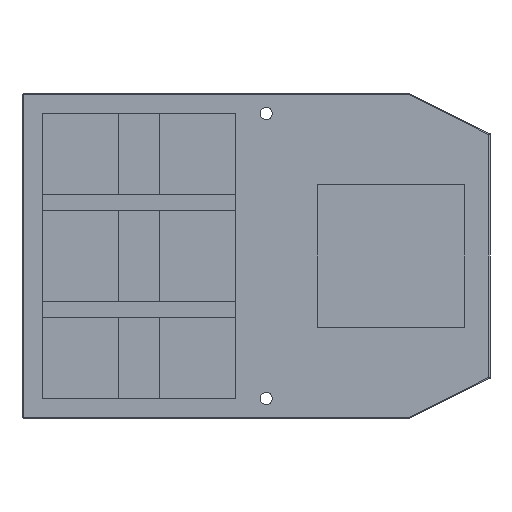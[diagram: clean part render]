
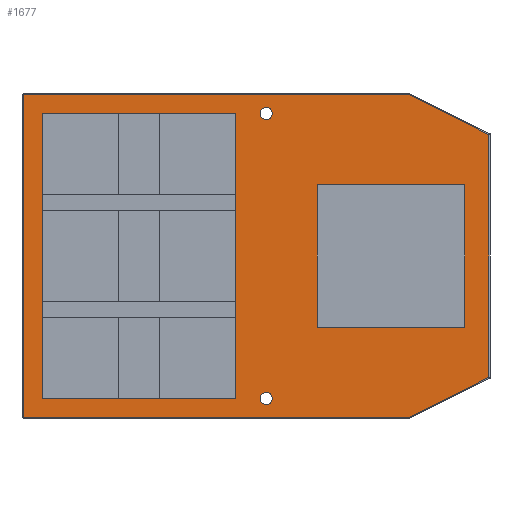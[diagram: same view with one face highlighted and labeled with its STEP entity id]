
A CAD part, front view. The second image highlights one B-rep face of the part: STEP entity #1677.
In plain terms, the highlighted planar face has unit normal (0, -1, 0).
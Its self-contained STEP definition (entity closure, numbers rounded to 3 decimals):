
#2=DIRECTION('',(0.,0.,-1.));
#3=VECTOR('',#2,280.);
#4=CARTESIAN_POINT('',(-200.,0.,140.));
#5=LINE('',#4,#3);
#6=DIRECTION('',(1.,0.,0.));
#7=VECTOR('',#6,190.);
#8=CARTESIAN_POINT('',(-200.,0.,-140.));
#9=LINE('',#8,#7);
#10=DIRECTION('',(0.,0.,1.));
#11=VECTOR('',#10,280.);
#12=CARTESIAN_POINT('',(-10.,0.,-140.));
#13=LINE('',#12,#11);
#14=DIRECTION('',(-1.,0.,0.));
#15=VECTOR('',#14,190.);
#16=CARTESIAN_POINT('',(-10.,0.,140.));
#17=LINE('',#16,#15);
#18=DIRECTION('',(0.,0.,-1.));
#19=VECTOR('',#18,140.);
#20=CARTESIAN_POINT('',(70.,0.,70.));
#21=LINE('',#20,#19);
#22=DIRECTION('',(1.,0.,0.));
#23=VECTOR('',#22,145.);
#24=CARTESIAN_POINT('',(70.,0.,-70.));
#25=LINE('',#24,#23);
#26=DIRECTION('',(0.,0.,1.));
#27=VECTOR('',#26,140.);
#28=CARTESIAN_POINT('',(215.,0.,-70.));
#29=LINE('',#28,#27);
#30=DIRECTION('',(-1.,0.,0.));
#31=VECTOR('',#30,145.);
#32=CARTESIAN_POINT('',(215.,0.,70.));
#33=LINE('',#32,#31);
#34=DIRECTION('',(0.,0.,-1.));
#35=VECTOR('',#34,318.);
#36=CARTESIAN_POINT('',(-219.,0.,159.));
#37=LINE('',#36,#35);
#38=DIRECTION('',(-1.,0.,0.));
#39=VECTOR('',#38,378.764);
#40=CARTESIAN_POINT('',(159.764,0.,159.));
#41=LINE('',#40,#39);
#42=DIRECTION('',(-0.894,0.,0.447));
#43=VECTOR('',#42,88.589);
#44=CARTESIAN_POINT('',(239.,0.,119.382));
#45=LINE('',#44,#43);
#46=DIRECTION('',(0.,0.,1.));
#47=VECTOR('',#46,238.764);
#48=CARTESIAN_POINT('',(239.,0.,-119.382));
#49=LINE('',#48,#47);
#50=DIRECTION('',(0.894,0.,0.447));
#51=VECTOR('',#50,88.589);
#52=CARTESIAN_POINT('',(159.764,0.,-159.));
#53=LINE('',#52,#51);
#54=DIRECTION('',(1.,0.,0.));
#55=VECTOR('',#54,378.764);
#56=CARTESIAN_POINT('',(-219.,0.,-159.));
#57=LINE('',#56,#55);
#58=CARTESIAN_POINT('',(20.,0.,-140.));
#59=DIRECTION('',(0.,1.,0.));
#60=DIRECTION('',(0.,0.,-1.));
#61=AXIS2_PLACEMENT_3D('',#58,#59,#60);
#63=CARTESIAN_POINT('',(20.,0.,-140.));
#64=DIRECTION('',(0.,1.,0.));
#65=DIRECTION('',(0.,0.,1.));
#66=AXIS2_PLACEMENT_3D('',#63,#64,#65);
#68=CARTESIAN_POINT('',(20.,0.,140.));
#69=DIRECTION('',(0.,1.,0.));
#70=DIRECTION('',(0.,0.,-1.));
#71=AXIS2_PLACEMENT_3D('',#68,#69,#70);
#73=CARTESIAN_POINT('',(20.,0.,140.));
#74=DIRECTION('',(0.,1.,0.));
#75=DIRECTION('',(0.,0.,1.));
#76=AXIS2_PLACEMENT_3D('',#73,#74,#75);
#1248=CARTESIAN_POINT('',(-200.,0.,140.));
#1249=CARTESIAN_POINT('',(-200.,0.,-140.));
#1250=VERTEX_POINT('',#1248);
#1251=VERTEX_POINT('',#1249);
#1252=CARTESIAN_POINT('',(-10.,0.,-140.));
#1253=VERTEX_POINT('',#1252);
#1254=CARTESIAN_POINT('',(-10.,0.,140.));
#1255=VERTEX_POINT('',#1254);
#1344=CARTESIAN_POINT('',(70.,0.,70.));
#1345=CARTESIAN_POINT('',(70.,0.,-70.));
#1346=VERTEX_POINT('',#1344);
#1347=VERTEX_POINT('',#1345);
#1348=CARTESIAN_POINT('',(215.,0.,-70.));
#1349=VERTEX_POINT('',#1348);
#1350=CARTESIAN_POINT('',(215.,0.,70.));
#1351=VERTEX_POINT('',#1350);
#1454=CARTESIAN_POINT('',(-219.,0.,159.));
#1455=CARTESIAN_POINT('',(-219.,0.,-159.));
#1456=VERTEX_POINT('',#1454);
#1457=VERTEX_POINT('',#1455);
#1462=CARTESIAN_POINT('',(159.764,0.,159.));
#1463=VERTEX_POINT('',#1462);
#1464=CARTESIAN_POINT('',(239.,0.,119.382));
#1465=VERTEX_POINT('',#1464);
#1468=CARTESIAN_POINT('',(239.,0.,-119.382));
#1469=VERTEX_POINT('',#1468);
#1472=CARTESIAN_POINT('',(159.764,0.,-159.));
#1473=VERTEX_POINT('',#1472);
#1610=CARTESIAN_POINT('',(20.,0.,-146.));
#1611=CARTESIAN_POINT('',(20.,0.,-134.));
#1612=VERTEX_POINT('',#1610);
#1613=VERTEX_POINT('',#1611);
#1614=CARTESIAN_POINT('',(20.,0.,134.));
#1615=CARTESIAN_POINT('',(20.,0.,146.));
#1616=VERTEX_POINT('',#1614);
#1617=VERTEX_POINT('',#1615);
#1626=CARTESIAN_POINT('',(0.,0.,0.));
#1627=DIRECTION('',(0.,1.,0.));
#1628=DIRECTION('',(1.,0.,0.));
#1629=AXIS2_PLACEMENT_3D('',#1626,#1627,#1628);
#1630=PLANE('',#1629);
#1632=ORIENTED_EDGE('',*,*,#1631,.F.);
#1634=ORIENTED_EDGE('',*,*,#1633,.F.);
#1636=ORIENTED_EDGE('',*,*,#1635,.F.);
#1638=ORIENTED_EDGE('',*,*,#1637,.F.);
#1640=ORIENTED_EDGE('',*,*,#1639,.F.);
#1642=ORIENTED_EDGE('',*,*,#1641,.F.);
#1643=EDGE_LOOP('',(#1632,#1634,#1636,#1638,#1640,#1642));
#1644=FACE_OUTER_BOUND('',#1643,.F.);
#1646=ORIENTED_EDGE('',*,*,#1645,.T.);
#1648=ORIENTED_EDGE('',*,*,#1647,.T.);
#1650=ORIENTED_EDGE('',*,*,#1649,.T.);
#1652=ORIENTED_EDGE('',*,*,#1651,.T.);
#1653=EDGE_LOOP('',(#1646,#1648,#1650,#1652));
#1654=FACE_BOUND('',#1653,.F.);
#1656=ORIENTED_EDGE('',*,*,#1655,.T.);
#1658=ORIENTED_EDGE('',*,*,#1657,.T.);
#1660=ORIENTED_EDGE('',*,*,#1659,.T.);
#1662=ORIENTED_EDGE('',*,*,#1661,.T.);
#1663=EDGE_LOOP('',(#1656,#1658,#1660,#1662));
#1664=FACE_BOUND('',#1663,.F.);
#1666=ORIENTED_EDGE('',*,*,#1665,.F.);
#1668=ORIENTED_EDGE('',*,*,#1667,.F.);
#1669=EDGE_LOOP('',(#1666,#1668));
#1670=FACE_BOUND('',#1669,.F.);
#1672=ORIENTED_EDGE('',*,*,#1671,.F.);
#1674=ORIENTED_EDGE('',*,*,#1673,.F.);
#1675=EDGE_LOOP('',(#1672,#1674));
#1676=FACE_BOUND('',#1675,.F.);
#1677=ADVANCED_FACE('',(#1644,#1654,#1664,#1670,#1676),#1630,.F.);
#62=CIRCLE('',#61,6.);
#67=CIRCLE('',#66,6.);
#72=CIRCLE('',#71,6.);
#77=CIRCLE('',#76,6.);
#1631=EDGE_CURVE('',#1456,#1457,#37,.T.);
#1633=EDGE_CURVE('',#1463,#1456,#41,.T.);
#1635=EDGE_CURVE('',#1465,#1463,#45,.T.);
#1637=EDGE_CURVE('',#1469,#1465,#49,.T.);
#1639=EDGE_CURVE('',#1473,#1469,#53,.T.);
#1641=EDGE_CURVE('',#1457,#1473,#57,.T.);
#1645=EDGE_CURVE('',#1250,#1251,#5,.T.);
#1647=EDGE_CURVE('',#1251,#1253,#9,.T.);
#1649=EDGE_CURVE('',#1253,#1255,#13,.T.);
#1651=EDGE_CURVE('',#1255,#1250,#17,.T.);
#1655=EDGE_CURVE('',#1346,#1347,#21,.T.);
#1657=EDGE_CURVE('',#1347,#1349,#25,.T.);
#1659=EDGE_CURVE('',#1349,#1351,#29,.T.);
#1661=EDGE_CURVE('',#1351,#1346,#33,.T.);
#1665=EDGE_CURVE('',#1612,#1613,#62,.T.);
#1667=EDGE_CURVE('',#1613,#1612,#67,.T.);
#1671=EDGE_CURVE('',#1616,#1617,#72,.T.);
#1673=EDGE_CURVE('',#1617,#1616,#77,.T.);
